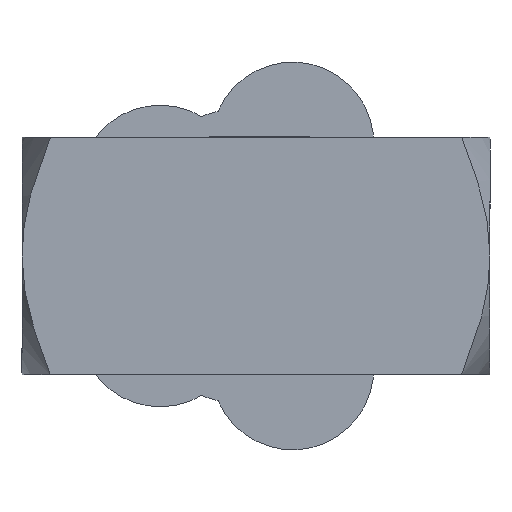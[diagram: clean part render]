
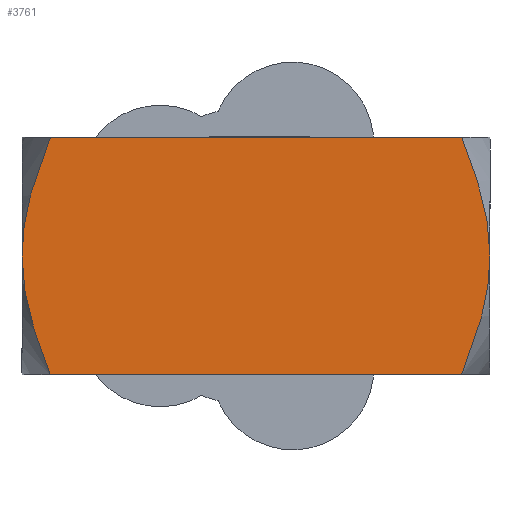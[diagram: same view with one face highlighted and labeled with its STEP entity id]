
A CAD part, front view. The second image highlights one B-rep face of the part: STEP entity #3761.
In plain terms, the highlighted planar face has unit normal (0, -1, 0).
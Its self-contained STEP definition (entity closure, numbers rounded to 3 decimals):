
#29=(
BOUNDED_CURVE()
B_SPLINE_CURVE(2,(#6296,#6297,#6298),.UNSPECIFIED.,.F.,.F.)
B_SPLINE_CURVE_WITH_KNOTS((3,3),(2.747,4.912),
 .UNSPECIFIED.)
CURVE()
GEOMETRIC_REPRESENTATION_ITEM()
RATIONAL_B_SPLINE_CURVE((1.,1.128,1.054))
REPRESENTATION_ITEM('')
);
#34=(
BOUNDED_CURVE()
B_SPLINE_CURVE(2,(#6322,#6323,#6324),.UNSPECIFIED.,.F.,.F.)
B_SPLINE_CURVE_WITH_KNOTS((3,3),(0.582,2.747),
 .UNSPECIFIED.)
CURVE()
GEOMETRIC_REPRESENTATION_ITEM()
RATIONAL_B_SPLINE_CURVE((1.054,1.128,1.))
REPRESENTATION_ITEM('')
);
#36=(
BOUNDED_CURVE()
B_SPLINE_CURVE(2,(#6332,#6333,#6334),.UNSPECIFIED.,.F.,.F.)
B_SPLINE_CURVE_WITH_KNOTS((3,3),(2.684,4.833),
 .UNSPECIFIED.)
CURVE()
GEOMETRIC_REPRESENTATION_ITEM()
RATIONAL_B_SPLINE_CURVE((1.,1.126,1.05))
REPRESENTATION_ITEM('')
);
#40=(
BOUNDED_CURVE()
B_SPLINE_CURVE(2,(#6353,#6354,#6355),.UNSPECIFIED.,.F.,.F.)
B_SPLINE_CURVE_WITH_KNOTS((3,3),(0.536,2.684),
 .UNSPECIFIED.)
CURVE()
GEOMETRIC_REPRESENTATION_ITEM()
RATIONAL_B_SPLINE_CURVE((1.05,1.126,1.))
REPRESENTATION_ITEM('')
);
#370=FACE_OUTER_BOUND('',#591,.T.);
#591=EDGE_LOOP('',(#3218,#3219,#3220,#3221,#3222,#3223));
#956=LINE('',#6042,#1313);
#1031=LINE('',#6359,#1388);
#1313=VECTOR('',#4578,10.);
#1388=VECTOR('',#4879,10.);
#1633=VERTEX_POINT('',#6037);
#1634=VERTEX_POINT('',#6041);
#1715=VERTEX_POINT('',#6295);
#1719=VERTEX_POINT('',#6317);
#1720=VERTEX_POINT('',#6326);
#1722=VERTEX_POINT('',#6331);
#2089=EDGE_CURVE('',#1634,#1633,#956,.T.);
#2208=EDGE_CURVE('',#1715,#1634,#29,.T.);
#2217=EDGE_CURVE('',#1719,#1715,#34,.T.);
#2219=EDGE_CURVE('',#1722,#1720,#36,.T.);
#2227=EDGE_CURVE('',#1633,#1722,#40,.T.);
#2229=EDGE_CURVE('',#1719,#1720,#1031,.T.);
#3218=ORIENTED_EDGE('',*,*,#2217,.T.);
#3219=ORIENTED_EDGE('',*,*,#2208,.T.);
#3220=ORIENTED_EDGE('',*,*,#2089,.T.);
#3221=ORIENTED_EDGE('',*,*,#2227,.T.);
#3222=ORIENTED_EDGE('',*,*,#2219,.T.);
#3223=ORIENTED_EDGE('',*,*,#2229,.F.);
#3366=PLANE('',#4029);
#3761=ADVANCED_FACE('',(#370),#3366,.T.);
#4029=AXIS2_PLACEMENT_3D('',#6360,#4880,#4881);
#4578=DIRECTION('',(-1.,0.,0.));
#4879=DIRECTION('',(-1.,0.,0.));
#4880=DIRECTION('center_axis',(0.,-1.,0.));
#4881=DIRECTION('ref_axis',(1.,0.,0.));
#6037=CARTESIAN_POINT('',(-47.364,-55.122,19.));
#6041=CARTESIAN_POINT('',(18.548,-55.122,19.));
#6042=CARTESIAN_POINT('',(-14.408,-55.122,19.));
#6295=CARTESIAN_POINT('',(23.092,-55.122,0.));
#6296=CARTESIAN_POINT('Ctrl Pts',(23.092,-55.122,0.));
#6297=CARTESIAN_POINT('Ctrl Pts',(23.092,-55.122,7.87));
#6298=CARTESIAN_POINT('Ctrl Pts',(18.548,-55.122,19.));
#6317=CARTESIAN_POINT('',(18.548,-55.122,-19.));
#6322=CARTESIAN_POINT('Ctrl Pts',(18.548,-55.122,-19.));
#6323=CARTESIAN_POINT('Ctrl Pts',(23.092,-55.122,-7.87));
#6324=CARTESIAN_POINT('Ctrl Pts',(23.092,-55.122,0.));
#6326=CARTESIAN_POINT('',(-47.364,-55.122,-19.));
#6331=CARTESIAN_POINT('',(-51.908,-55.122,0.));
#6332=CARTESIAN_POINT('Ctrl Pts',(-51.908,-55.122,0.));
#6333=CARTESIAN_POINT('Ctrl Pts',(-51.908,-55.122,-7.87));
#6334=CARTESIAN_POINT('Ctrl Pts',(-47.364,-55.122,-19.));
#6353=CARTESIAN_POINT('Ctrl Pts',(-47.364,-55.122,19.));
#6354=CARTESIAN_POINT('Ctrl Pts',(-51.908,-55.122,7.87));
#6355=CARTESIAN_POINT('Ctrl Pts',(-51.908,-55.122,0.));
#6359=CARTESIAN_POINT('',(-14.408,-55.122,-19.));
#6360=CARTESIAN_POINT('Origin',(-14.408,-55.122,19.));
